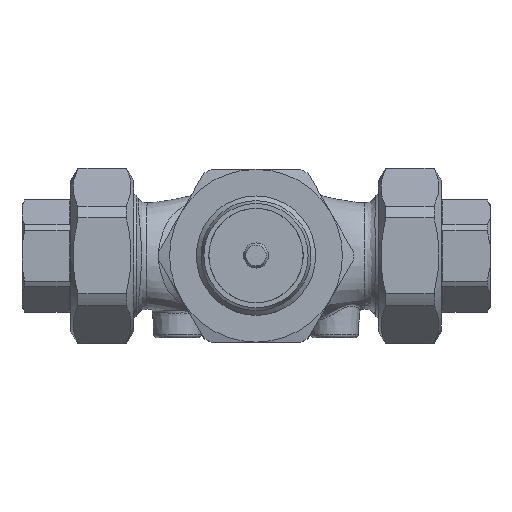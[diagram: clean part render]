
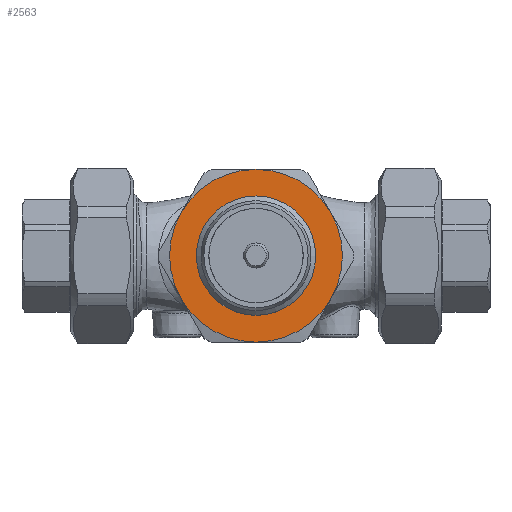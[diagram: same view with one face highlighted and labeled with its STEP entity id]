
A CAD part, top view. The second image highlights one B-rep face of the part: STEP entity #2563.
In plain terms, the highlighted planar face has unit normal (0, 0, 1).
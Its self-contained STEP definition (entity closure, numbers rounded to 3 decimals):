
#2563=ADVANCED_FACE('',(#3350,#3351),#3104,.T.);
#3104=PLANE('',#10298);
#3350=FACE_BOUND('',#3680,.T.);
#3351=FACE_BOUND('',#3681,.T.);
#3680=EDGE_LOOP('',(#4845,#4846,#4847,#4848,#4849,#4850));
#3681=EDGE_LOOP('',(#4851));
#4845=ORIENTED_EDGE('',*,*,#8354,.T.);
#4846=ORIENTED_EDGE('',*,*,#8355,.T.);
#4847=ORIENTED_EDGE('',*,*,#8356,.T.);
#4848=ORIENTED_EDGE('',*,*,#8357,.T.);
#4849=ORIENTED_EDGE('',*,*,#8358,.T.);
#4850=ORIENTED_EDGE('',*,*,#8359,.T.);
#4851=ORIENTED_EDGE('',*,*,#8360,.T.);
#7335=VERTEX_POINT('',#20483);
#7336=VERTEX_POINT('',#20484);
#7337=VERTEX_POINT('',#20486);
#7338=VERTEX_POINT('',#20488);
#7339=VERTEX_POINT('',#20490);
#7340=VERTEX_POINT('',#20492);
#7341=VERTEX_POINT('',#20495);
#8354=EDGE_CURVE('',#7335,#7336,#9608,.T.);
#8355=EDGE_CURVE('',#7336,#7337,#9609,.T.);
#8356=EDGE_CURVE('',#7337,#7338,#9610,.T.);
#8357=EDGE_CURVE('',#7338,#7339,#9611,.T.);
#8358=EDGE_CURVE('',#7339,#7340,#9612,.T.);
#8359=EDGE_CURVE('',#7340,#7335,#9613,.T.);
#8360=EDGE_CURVE('',#7341,#7341,#9614,.T.);
#9608=CIRCLE('',#10291,27.5);
#9609=CIRCLE('',#10292,27.5);
#9610=CIRCLE('',#10293,27.5);
#9611=CIRCLE('',#10294,27.5);
#9612=CIRCLE('',#10295,27.5);
#9613=CIRCLE('',#10296,27.5);
#9614=CIRCLE('',#10297,19.);
#10291=AXIS2_PLACEMENT_3D('',#20482,#11729,#11730);
#10292=AXIS2_PLACEMENT_3D('',#20485,#11731,#11732);
#10293=AXIS2_PLACEMENT_3D('',#20487,#11733,#11734);
#10294=AXIS2_PLACEMENT_3D('',#20489,#11735,#11736);
#10295=AXIS2_PLACEMENT_3D('',#20491,#11737,#11738);
#10296=AXIS2_PLACEMENT_3D('',#20493,#11739,#11740);
#10297=AXIS2_PLACEMENT_3D('',#20494,#11741,#11742);
#10298=AXIS2_PLACEMENT_3D('',#20496,#11743,#11744);
#11729=DIRECTION('',(0.,0.,1.));
#11730=DIRECTION('',(-1.,0.,0.));
#11731=DIRECTION('',(0.,0.,1.));
#11732=DIRECTION('',(-1.,0.,0.));
#11733=DIRECTION('',(0.,0.,1.));
#11734=DIRECTION('',(-1.,0.,0.));
#11735=DIRECTION('',(0.,0.,1.));
#11736=DIRECTION('',(-1.,0.,0.));
#11737=DIRECTION('',(0.,0.,1.));
#11738=DIRECTION('',(-1.,0.,0.));
#11739=DIRECTION('',(0.,0.,1.));
#11740=DIRECTION('',(-1.,0.,0.));
#11741=DIRECTION('',(0.,0.,-1.));
#11742=DIRECTION('',(1.,0.,0.));
#11743=DIRECTION('',(0.,0.,1.));
#11744=DIRECTION('',(-1.,0.,0.));
#20482=CARTESIAN_POINT('',(0.,0.,48.));
#20483=CARTESIAN_POINT('',(-23.816,-13.75,48.));
#20484=CARTESIAN_POINT('',(0.,-27.5,48.));
#20485=CARTESIAN_POINT('',(0.,0.,48.));
#20486=CARTESIAN_POINT('',(23.816,-13.75,48.));
#20487=CARTESIAN_POINT('',(0.,0.,48.));
#20488=CARTESIAN_POINT('',(23.816,13.75,48.));
#20489=CARTESIAN_POINT('',(0.,0.,48.));
#20490=CARTESIAN_POINT('',(0.,27.5,48.));
#20491=CARTESIAN_POINT('',(0.,0.,48.));
#20492=CARTESIAN_POINT('',(-23.816,13.75,48.));
#20493=CARTESIAN_POINT('',(0.,0.,48.));
#20494=CARTESIAN_POINT('',(0.,0.,48.));
#20495=CARTESIAN_POINT('',(19.,0.,48.));
#20496=CARTESIAN_POINT('',(-19.5,0.,48.));
